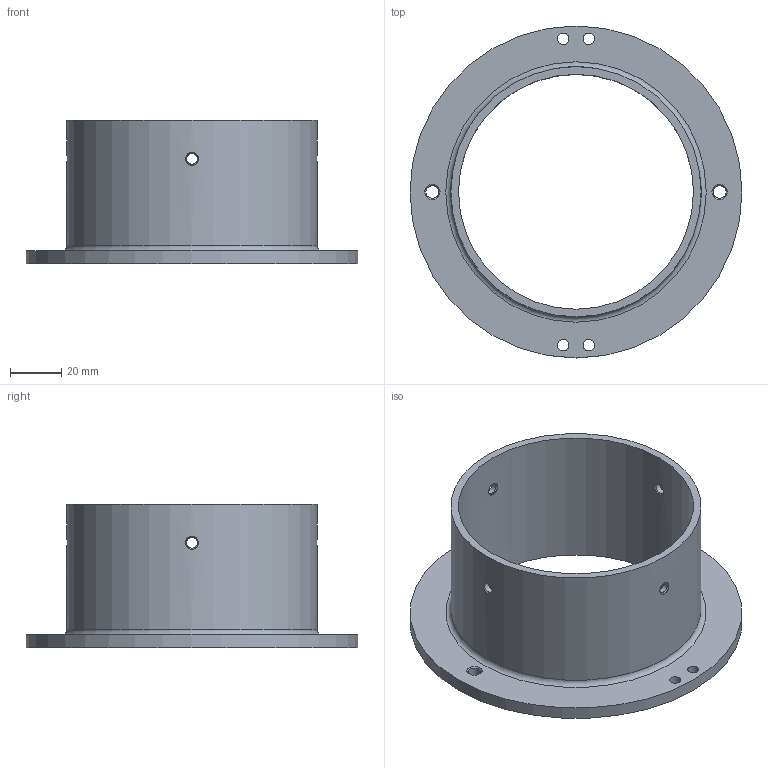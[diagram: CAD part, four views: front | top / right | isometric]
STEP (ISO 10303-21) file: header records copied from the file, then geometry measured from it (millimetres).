
FILE_DESCRIPTION(/* description */ (''),/* implementation_level */ '2;1');
FILE_NAME(/* name */ '支撑架.stp',/* time_stamp */ '2026-09-15T20:38:05+08:00',/* author */ (''),/* organization */ (''),/* preprocessor_version */ 'ST-DEVELOPER v20',/* originating_system */ 'SIEMENS PLM Software NX2312.1700',/* authorisation */ '');
FILE_SCHEMA (('AUTOMOTIVE_DESIGN { 1 0 10303 214 3 1 1 1 }'));
Length unit declared in the file: millimetre
Products named in the file (1): 支撑架
Bounding box: 130 x 130 x 56 mm (x, y, z)
Volume: 78370.9 mm3; surface area: 47157.5 mm2
Topology: 1 solids, 1 shells, 29 faces, 88 edges, 60 vertices
Faces by surface type: cylinder 13, cone 12, plane 3, torus 1
Full cylindrical faces by diameter (mm): 4.2 x4, 4.4 x4, 5 x2, 92 x1, 98 x1, 130 x1
Entity records: 1184 total; most frequent: CARTESIAN_POINT 564, DIRECTION 122, FACE_BOUND 78, EDGE_LOOP 78, ORIENTED_EDGE 78, AXIS2_PLACEMENT_3D 61, VERTEX_POINT 39, EDGE_CURVE 39
